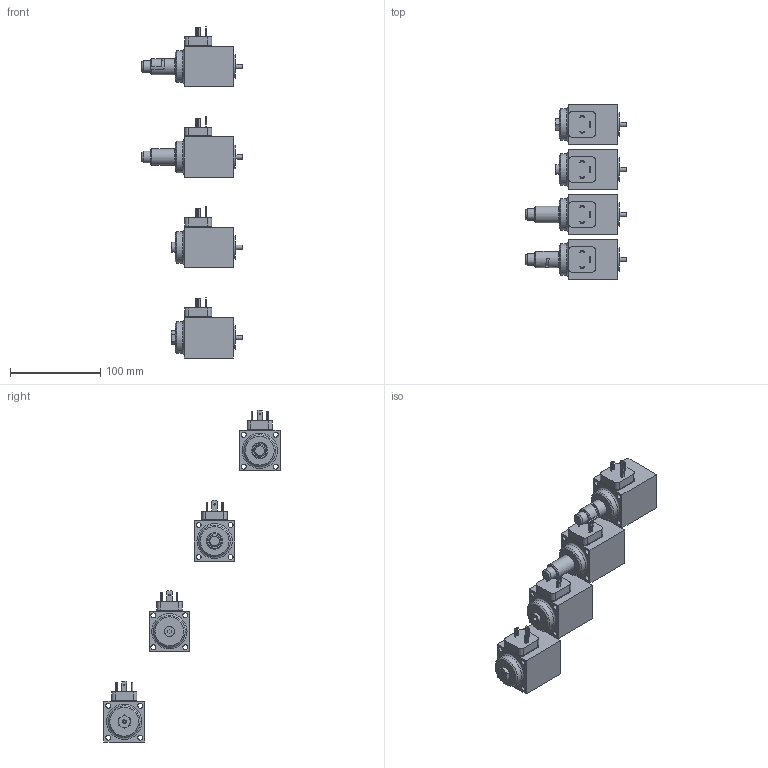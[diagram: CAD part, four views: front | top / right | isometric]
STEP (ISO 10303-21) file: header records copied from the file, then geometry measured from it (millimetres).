
FILE_DESCRIPTION(('Bauteilbeschreibung','HiCAD-Model','HiCAD-STEP-TRANSLATION','Bauteilbeschreibung'),'2;1');
FILE_NAME('K:/STEP_DXF/SIS45V.STP','2006-05-12T12:39:30+00:00',('Konstrukteur'),('Konstrukteur Firma GmbH'),'HiCAD3 V1210 STEP 1.6.2005','HiCAD3 V1210','confidential');
FILE_SCHEMA(('AUTOMOTIVE_DESIGN { 1 2 10303 214 0 1 1 1 }'));
Length unit declared in the file: millimetre
Products named in the file (29): SIS45V; SIS45V_H19; SIS45V0H19; AE4B5AD6; DAB12417; DAB124170; DICHTUNG; A6C5878A; SIS45V_H1; SIS45V0H1; AE4B5AD60; DAB124171; DAB124172; DICHTUNG0; A270342B; SIS45V_HB0; SIS45V0HB0; AE4B5AD61; DAB124173; DAB124174; DICHTUNG1; F134825D; SIS45V_HB6; SIS45V0HB6; CF9A8A47; DAB124175; DAB124176; DICHTUNG2; AE4B5AD62
Assembly tree (28 placements, depth 5):
  SIS45V
    SIS45V_H19
      SIS45V0H19
        AE4B5AD6
        DAB12417
        DAB124170
          DICHTUNG
        A6C5878A
    SIS45V_H1
      SIS45V0H1
        AE4B5AD60
        DAB124171
        DAB124172
          DICHTUNG0
        A270342B
    SIS45V_HB0
      SIS45V0HB0
        AE4B5AD61
        DAB124173
        DAB124174
          DICHTUNG1
        F134825D
    SIS45V_HB6
      SIS45V0HB6
        CF9A8A47
        DAB124175
        DAB124176
          DICHTUNG2
        AE4B5AD62
Bounding box: 111.4 x 195 x 367.5 mm (x, y, z)
Volume: 506975.4 mm3; surface area: 105369 mm2
Topology: 28 solids, 28 shells, 457 faces, 1071 edges, 723 vertices
Faces by surface type: plane 261, cylinder 155, cone 30, torus 11
Full cylindrical faces by diameter (mm): 1.5 x12, 2.5 x1, 3 x12, 4.2 x1, 4.9 x4, 5.5 x16, 6 x1, 6.4 x1, 6.5 x4, 6.8 x2, 8 x8, 9.8 x4, 11 x1, 13 x2, 13.6 x4, 15 x4, 18 x2, 26 x4, 35 x4
Entity records: 21690 total; most frequent: CARTESIAN_POINT 2806, DIRECTION 2235, ORIENTED_EDGE 1794, COLOUR_RGB 1370, PRESENTATION_STYLE_ASSIGNMENT 1370, OVER_RIDING_STYLED_ITEM 1354, CURVE_STYLE 897, DRAUGHTING_PRE_DEFINED_CURVE_FONT 897
